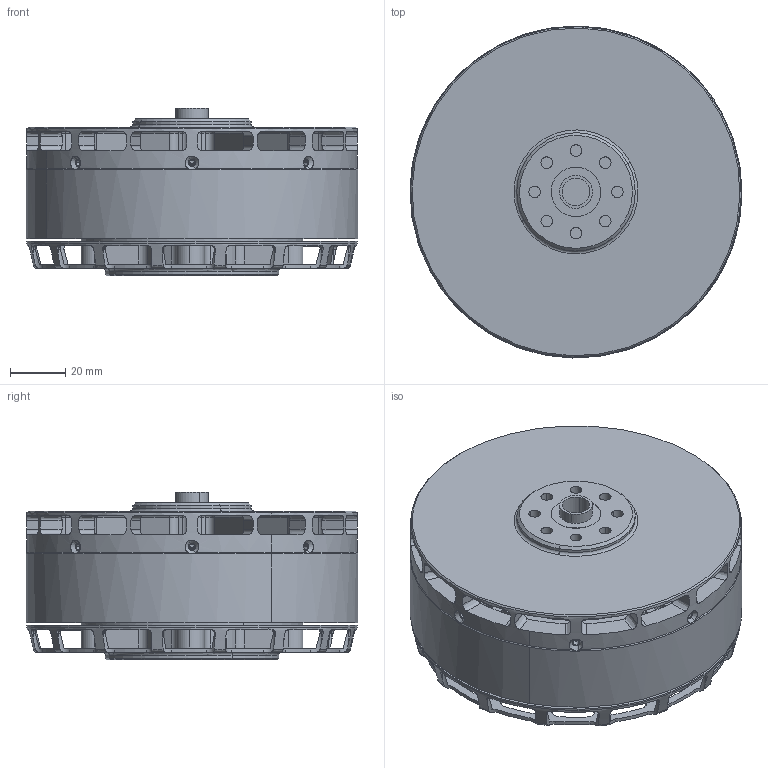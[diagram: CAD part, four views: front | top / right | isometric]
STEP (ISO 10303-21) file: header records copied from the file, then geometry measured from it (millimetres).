
FILE_DESCRIPTION (( 'STEP AP214' ), '1' );
FILE_NAME ('VL1155.STEP', '2025-07-29T06:57:45', ( '' ), ( '' ), 'SwSTEP 2.0', 'SolidWorks 2021', '' );
FILE_SCHEMA (( 'AUTOMOTIVE_DESIGN' ));
Length unit declared in the file: millimetre
Products named in the file (1): VL1155
Bounding box: 120.5 x 120.5 x 60.9 mm (x, y, z)
Volume: 202200.7 mm3; surface area: 150974.3 mm2
Topology: 1 solids, 4 shells, 2121 faces, 6194 edges, 4015 vertices
Faces by surface type: cylinder 1083, plane 662, torus 172, cone 125, bspline 79
Entity records: 102594 total; most frequent: CARTESIAN_POINT 21900, DIRECTION 12395, ORIENTED_EDGE 12328, EDGE_CURVE 6164, AXIS2_PLACEMENT_3D 4859, VERTEX_POINT 4015, CIRCLE 2816, VECTOR 2677
